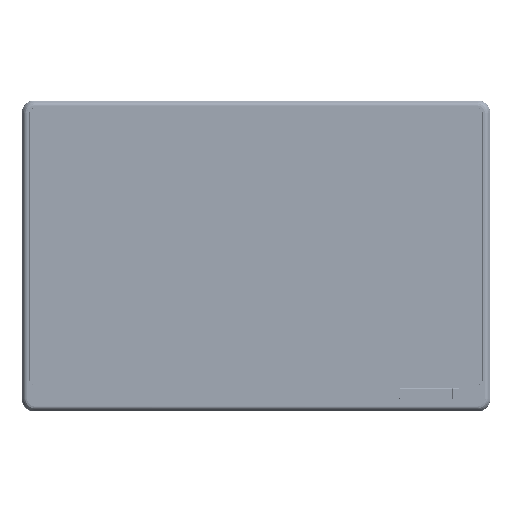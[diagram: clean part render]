
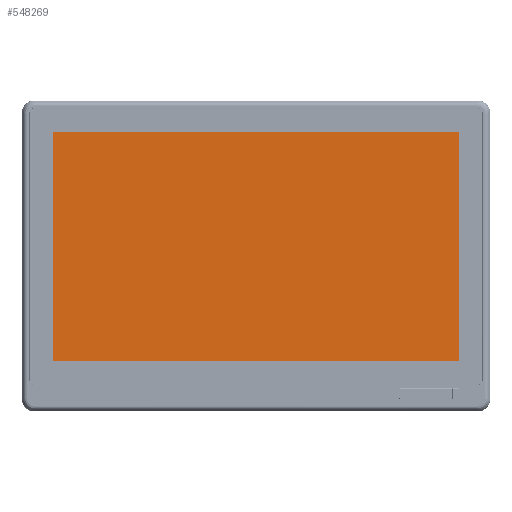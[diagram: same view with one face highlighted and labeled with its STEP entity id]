
A CAD part, top view. The second image highlights one B-rep face of the part: STEP entity #548269.
In plain terms, the highlighted planar face has unit normal (0, 0, 1).
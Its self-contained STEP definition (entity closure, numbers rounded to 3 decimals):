
#989 = VECTOR ( 'NONE', #1262182, 1000. ) ;
#5886 = EDGE_LOOP ( 'NONE', ( #276082, #802746 ) ) ;
#16280 = CARTESIAN_POINT ( 'NONE',  ( -184.526, -89.473, 409.787 ) ) ;
#26724 = CARTESIAN_POINT ( 'NONE',  ( 159.704, 104.067, 409.787 ) ) ;
#56639 = EDGE_CURVE ( 'NONE', #989113, #1269926, #818788, .T. ) ;
#71426 = ORIENTED_EDGE ( 'NONE', *, *, #205985, .T. ) ;
#91062 = FACE_BOUND ( 'NONE', #5886, .T. ) ;
#94616 = VERTEX_POINT ( 'NONE', #486459 ) ;
#95510 = CARTESIAN_POINT ( 'NONE',  ( -12.414, 7.297, 409.787 ) ) ;
#122296 = FACE_OUTER_BOUND ( 'NONE', #390375, .T. ) ;
#135561 = CARTESIAN_POINT ( 'NONE',  ( -12.664, 7.297, 409.787 ) ) ;
#169622 = DIRECTION ( 'NONE',  ( 0., 0., 1. ) ) ;
#195835 = DIRECTION ( 'NONE',  ( 1., 0., 0. ) ) ;
#205985 = EDGE_CURVE ( 'NONE', #856520, #94616, #766025, .T. ) ;
#232411 = VERTEX_POINT ( 'NONE', #135561 ) ;
#236034 = ORIENTED_EDGE ( 'NONE', *, *, #281522, .T. ) ;
#276082 = ORIENTED_EDGE ( 'NONE', *, *, #989442, .F. ) ;
#281522 = EDGE_CURVE ( 'NONE', #1269926, #856520, #300385, .T. ) ;
#300385 = LINE ( 'NONE', #1009538, #800114 ) ;
#370864 = AXIS2_PLACEMENT_3D ( 'NONE', #767442, #169622, #867834 ) ;
#381455 = LINE ( 'NONE', #1159541, #647143 ) ;
#390375 = EDGE_LOOP ( 'NONE', ( #236034, #71426, #720459, #845742 ) ) ;
#407435 = DIRECTION ( 'NONE',  ( 0., -1., 0. ) ) ;
#410458 = CARTESIAN_POINT ( 'NONE',  ( -184.526, 104.067, 409.787 ) ) ;
#461712 = DIRECTION ( 'NONE',  ( 0., 1., 0. ) ) ;
#469836 = CARTESIAN_POINT ( 'NONE',  ( -12.414, 7.297, 409.787 ) ) ;
#486459 = CARTESIAN_POINT ( 'NONE',  ( 159.704, -89.473, 409.787 ) ) ;
#490302 = AXIS2_PLACEMENT_3D ( 'NONE', #469836, #1167587, #570318 ) ;
#548269 = ADVANCED_FACE ( 'NONE', ( #122296, #91062 ), #959453, .T. ) ;
#568006 = CARTESIAN_POINT ( 'NONE',  ( -184.526, 104.067, 409.787 ) ) ;
#570318 = DIRECTION ( 'NONE',  ( 1., 0., 0. ) ) ;
#647143 = VECTOR ( 'NONE', #461712, 1000. ) ;
#690713 = CARTESIAN_POINT ( 'NONE',  ( -12.164, 7.297, 409.787 ) ) ;
#720459 = ORIENTED_EDGE ( 'NONE', *, *, #787832, .T. ) ;
#732985 = AXIS2_PLACEMENT_3D ( 'NONE', #95510, #793648, #195835 ) ;
#766025 = LINE ( 'NONE', #769694, #989 ) ;
#767442 = CARTESIAN_POINT ( 'NONE',  ( -184.526, -89.473, 409.787 ) ) ;
#769694 = CARTESIAN_POINT ( 'NONE',  ( -184.526, -89.473, 409.787 ) ) ;
#778011 = CIRCLE ( 'NONE', #732985, 0.25 ) ;
#787832 = EDGE_CURVE ( 'NONE', #94616, #989113, #381455, .T. ) ;
#793648 = DIRECTION ( 'NONE',  ( 0., 0., 1. ) ) ;
#800114 = VECTOR ( 'NONE', #407435, 1000. ) ;
#802746 = ORIENTED_EDGE ( 'NONE', *, *, #1144097, .F. ) ;
#818788 = LINE ( 'NONE', #410458, #1052646 ) ;
#839502 = VERTEX_POINT ( 'NONE', #690713 ) ;
#845742 = ORIENTED_EDGE ( 'NONE', *, *, #56639, .T. ) ;
#856520 = VERTEX_POINT ( 'NONE', #16280 ) ;
#867834 = DIRECTION ( 'NONE',  ( 1., 0., 0. ) ) ;
#959453 = PLANE ( 'NONE',  #370864 ) ;
#989113 = VERTEX_POINT ( 'NONE', #26724 ) ;
#989442 = EDGE_CURVE ( 'NONE', #839502, #232411, #778011, .T. ) ;
#1008262 = DIRECTION ( 'NONE',  ( -1., 0., 0. ) ) ;
#1009538 = CARTESIAN_POINT ( 'NONE',  ( -184.526, 104.067, 409.787 ) ) ;
#1052646 = VECTOR ( 'NONE', #1008262, 1000. ) ;
#1144097 = EDGE_CURVE ( 'NONE', #232411, #839502, #1180494, .T. ) ;
#1159541 = CARTESIAN_POINT ( 'NONE',  ( 159.704, 104.067, 409.787 ) ) ;
#1167587 = DIRECTION ( 'NONE',  ( 0., 0., 1. ) ) ;
#1180494 = CIRCLE ( 'NONE', #490302, 0.25 ) ;
#1262182 = DIRECTION ( 'NONE',  ( 1., 0., 0. ) ) ;
#1269926 = VERTEX_POINT ( 'NONE', #568006 ) ;
